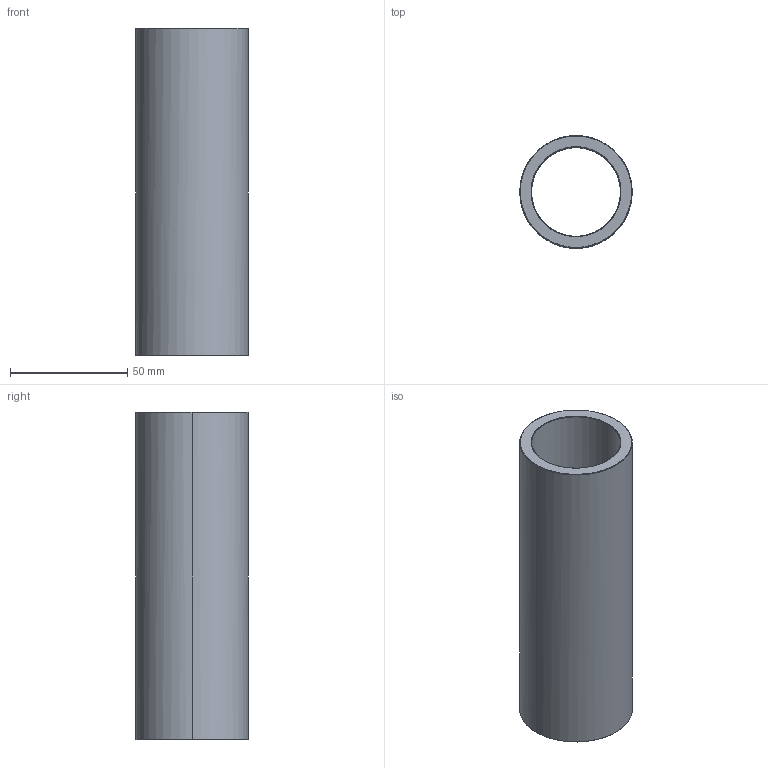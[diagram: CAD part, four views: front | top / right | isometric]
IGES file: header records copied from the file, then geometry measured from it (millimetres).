
Start section: Write IGES format                                    datakit 2008 (c)
Global section: file name: Unknown; native system: DATAKIT Converter; preprocessor: Unknown; author: Unknown; organization: Unknown; date: 950613.180003; units: millimetre
Bounding box: 48 x 47.93 x 140 mm (x, y, z)
Surface area: 39112.4 mm2 (no closed solid volume)
Topology: 0 solids, 0 shells, 14 faces, 56 edges, 56 vertices
Faces by surface type: revolution 12, bspline 2
